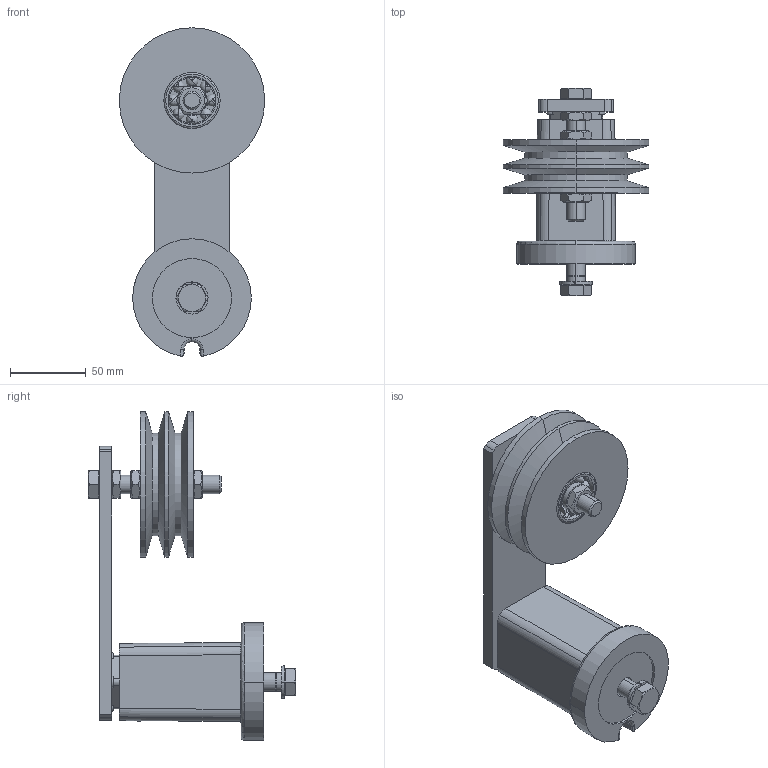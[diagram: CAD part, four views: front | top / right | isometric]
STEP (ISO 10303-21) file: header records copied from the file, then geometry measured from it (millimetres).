
FILE_DESCRIPTION((''),'2;1');
FILE_NAME('\\rostaofc\data\uw\save\daten_f\Normprogramm 3D\Spannelemente\KSE27-SPA2_06201005.stp','2004-09-28T11:20:18',('uw'),(''),'Autodesk Inventor 8','Autodesk Inventor 8','');
FILE_SCHEMA(('AUTOMOTIVE_DESIGN { 1 0 10303 214 1 1 1 1 }'));
Length unit declared in the file: millimetre
Products named in the file (17): ROSTA-Spannelement KSE 27 SPA 90-2; SE27; Spannelement-Gehäuse SE27; Gehäuse; Innenteil zu SE27; Hebel zu SE27 (m. 2- Loch); 3_10_6665-001; 3_10_6673-002; Sechskantschraube - M12 x 40; Federring - A12; SK3200-003; Keilriemenscheibe SPA 90-2 komplett; Keilriemenscheibe SPA 90-2 bearbeitet; C3; Distanzbüchse zu Keilriemenscheibe SPA 90-2; Sechskantschraube - M12 x 80; Sechskantmutter - M12
Assembly tree (22 placements, depth 4):
  ROSTA-Spannelement KSE 27 SPA 90-2
    SE27
      Spannelement-Gehäuse SE27
        Gehäuse
      Innenteil zu SE27
        Hebel zu SE27 (m. 2- Loch)
        3_10_6665-001
      3_10_6673-002  x4
      Sechskantschraube - M12 x 40
      Federring - A12
      SK3200-003
    Keilriemenscheibe SPA 90-2 komplett
      Keilriemenscheibe SPA 90-2 bearbeitet
      C3  x2
      Distanzbüchse zu Keilriemenscheibe SPA 90-2
    Sechskantschraube - M12 x 80
    Sechskantmutter - M12  x3
Bounding box: 95.6 x 136.5 x 216.08 mm (x, y, z)
Volume: 478316.4 mm3; surface area: 155318 mm2
Topology: 20 solids, 36 shells, 487 faces, 1232 edges, 701 vertices
Faces by surface type: cylinder 144, plane 136, bspline 90, cone 53, sphere 42, torus 22
Entity records: 11513 total; most frequent: CARTESIAN_POINT 2737, DIRECTION 1959, ORIENTED_EDGE 1668, EDGE_CURVE 834, AXIS2_PLACEMENT_3D 823, VERTEX_POINT 507, CIRCLE 440, EDGE_LOOP 408
